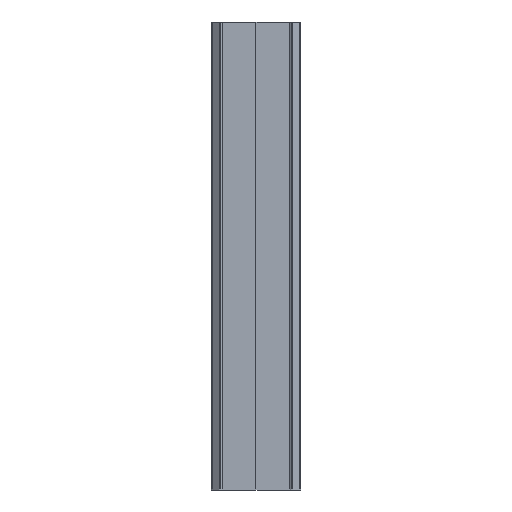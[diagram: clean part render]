
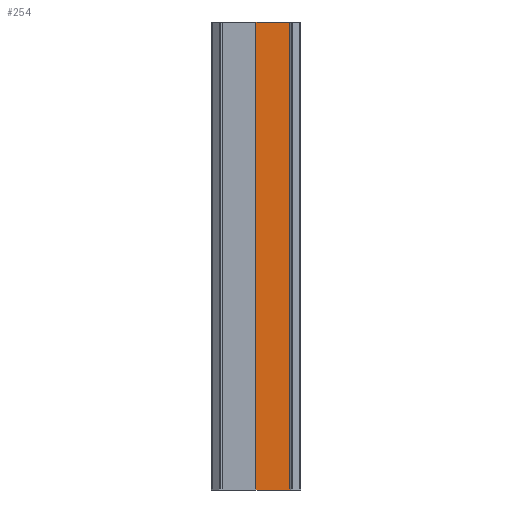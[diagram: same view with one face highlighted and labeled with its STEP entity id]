
A CAD part, front view. The second image highlights one B-rep face of the part: STEP entity #254.
In plain terms, the highlighted planar face has unit normal (0, -1, 0).
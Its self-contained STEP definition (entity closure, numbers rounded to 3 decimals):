
#67 = CARTESIAN_POINT ( 'NONE',  ( 0., 1.85, 50. ) ) ;
#68 = CARTESIAN_POINT ( 'NONE',  ( 3.6, 1.85, 0. ) ) ;
#73 = CARTESIAN_POINT ( 'NONE',  ( 3.6, 1.85, 50. ) ) ;
#76 = CARTESIAN_POINT ( 'NONE',  ( 0., 1.85, 0. ) ) ;
#178 = EDGE_LOOP ( 'NONE', ( #795, #641, #649, #666 ) ) ;
#254 = ADVANCED_FACE ( 'NONE', ( #593 ), #322, .T. ) ;
#320 = DIRECTION ( 'NONE',  ( 0., 0., -1. ) ) ;
#322 = PLANE ( 'NONE',  #522 ) ;
#324 = DIRECTION ( 'NONE',  ( 0., -1., 0. ) ) ;
#331 = CARTESIAN_POINT ( 'NONE',  ( 0., 1.85, 0. ) ) ;
#358 = DIRECTION ( 'NONE',  ( 1., 0., 0. ) ) ;
#361 = CARTESIAN_POINT ( 'NONE',  ( 0., 1.85, 50. ) ) ;
#369 = DIRECTION ( 'NONE',  ( 0., 0., -1. ) ) ;
#371 = CARTESIAN_POINT ( 'NONE',  ( 3.6, 1.85, 0. ) ) ;
#376 = DIRECTION ( 'NONE',  ( 1., 0., 0. ) ) ;
#378 = CARTESIAN_POINT ( 'NONE',  ( 0., 1.85, 0. ) ) ;
#382 = DIRECTION ( 'NONE',  ( 0., 0., -1. ) ) ;
#392 = CARTESIAN_POINT ( 'NONE',  ( 0., 1.85, 0. ) ) ;
#475 = EDGE_CURVE ( 'NONE', #648, #640, #936, .T. ) ;
#477 = EDGE_CURVE ( 'NONE', #640, #628, #934, .T. ) ;
#479 = EDGE_CURVE ( 'NONE', #625, #628, #929, .T. ) ;
#481 = EDGE_CURVE ( 'NONE', #648, #625, #925, .T. ) ;
#522 = AXIS2_PLACEMENT_3D ( 'NONE', #331, #324, #320 ) ;
#593 = FACE_OUTER_BOUND ( 'NONE', #178, .T. ) ;
#625 = VERTEX_POINT ( 'NONE', #73 ) ;
#628 = VERTEX_POINT ( 'NONE', #68 ) ;
#640 = VERTEX_POINT ( 'NONE', #76 ) ;
#641 = ORIENTED_EDGE ( 'NONE', *, *, #477, .T. ) ;
#648 = VERTEX_POINT ( 'NONE', #67 ) ;
#649 = ORIENTED_EDGE ( 'NONE', *, *, #479, .F. ) ;
#666 = ORIENTED_EDGE ( 'NONE', *, *, #481, .F. ) ;
#795 = ORIENTED_EDGE ( 'NONE', *, *, #475, .T. ) ;
#821 = VECTOR ( 'NONE', #382, 1000. ) ;
#922 = VECTOR ( 'NONE', #358, 1000. ) ;
#925 = LINE ( 'NONE', #361, #922 ) ;
#926 = VECTOR ( 'NONE', #369, 1000. ) ;
#929 = LINE ( 'NONE', #371, #926 ) ;
#930 = VECTOR ( 'NONE', #376, 1000. ) ;
#934 = LINE ( 'NONE', #378, #930 ) ;
#936 = LINE ( 'NONE', #392, #821 ) ;
